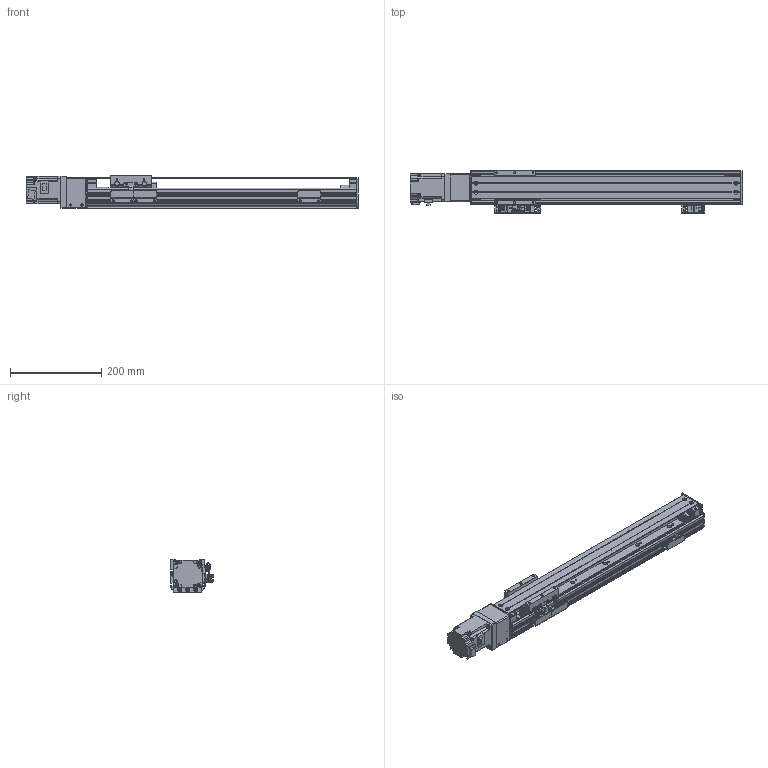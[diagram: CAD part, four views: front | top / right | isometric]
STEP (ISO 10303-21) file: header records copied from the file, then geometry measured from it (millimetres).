
FILE_DESCRIPTION(/* description */ (''),/* implementation_level */ '2;1');
FILE_NAME(/* name */ '\\192.168.0.160\disk1\HAN SHIN Master\B-설계부문\C-표준\B-2024년\BC02-표준도면\+로봇 개선표준도면\표준 승인도 작업 폴더\3D\HG75\HG75직렬\HG75-S20-N1B-0400-R10.stp',/* time_stamp */ '2024-02-01T15:16:43+09:00',/* author */ ('User'),/* organization */ (''),/* preprocessor_version */ 'ST-DEVELOPER v18.1',/* originating_system */ 'Autodesk Inventor 2022',/* authorisation */ '');
FILE_SCHEMA (('AUTOMOTIVE_DESIGN { 1 0 10303 214 3 1 1 }'));
Length unit declared in the file: millimetre
Products named in the file (22): HG75-S20-N1B-0500-R10 - 간소화; BASE; HR75 FRONT BLOCK; HR75 REAR COVER-TENTION; HR75 TENSION REAR BLOCK; HG3UPCOV001; H 15F_BLOCK; SDWA-31C; COUPLING COVER; HR75 REAR COVER; HR65,75 SENSOR DOG; HG90STOPPER - 20L; HG90STOPPER - 27L; hg-kr23_; HG75 S MOTOR PLATE-B; HG75 S MOTOR PLATE-M; hsr_ftht_A-M6F_grease_nipple_joint; NIPPLE CAP(신규); HR75 W TABLE; LMKE1520 NUT; SENSOR BRK(EE-SX674A); EE_SX674A
Assembly tree (27 placements, depth 2):
  HG75-S20-N1B-0500-R10 - 간소화
    BASE
    HR75 FRONT BLOCK
    HR75 REAR COVER-TENTION
    SENSOR BRK(EE-SX674A)  x3
    EE_SX674A  x3
    HR75 TENSION REAR BLOCK
    HG3UPCOV001
    H 15F_BLOCK
    SDWA-31C
    COUPLING COVER
    HR75 REAR COVER
    HR65,75 SENSOR DOG
    HG90STOPPER - 20L
    HG90STOPPER - 27L
    hg-kr23_
    HG75 S MOTOR PLATE-B
    HG75 S MOTOR PLATE-M
    hsr_ftht_A-M6F_grease_nipple_joint  x2
    NIPPLE CAP(신규)  x2
    HR75 W TABLE
    LMKE1520 NUT
Bounding box: 727.6 x 94 x 73 mm (x, y, z)
Volume: 1283552.2 mm3; surface area: 522783.5 mm2
Topology: 27 solids, 59 shells, 1990 faces, 5171 edges, 3372 vertices
Faces by surface type: plane 963, cylinder 714, cone 209, torus 80, sphere 16, bspline 8
Full cylindrical faces by diameter (mm): 2 x4, 2.013 x2, 2.459 x12, 2.5 x20, 3 x38, 3.1 x2, 3.242 x30, 3.3 x4, 3.5 x6, 4.134 x49, 4.5 x18, 4.917 x5, 5 x55, 5.5 x43, 5.6 x10, 5.8 x4, 5.9 x10, 6 x6, 6.45 x10, 6.5 x4, 9.5 x29, 14 x1, 14.5 x2, 14.7 x1, 15 x4, 17 x1, 25 x2, 28 x1, 31.8 x3, 32 x2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
Entity records: 56157 total; most frequent: CARTESIAN_POINT 10651, DIRECTION 9700, ORIENTED_EDGE 8882, EDGE_CURVE 4441, AXIS2_PLACEMENT_3D 3626, VERTEX_POINT 2933, LINE 2448, VECTOR 2448
